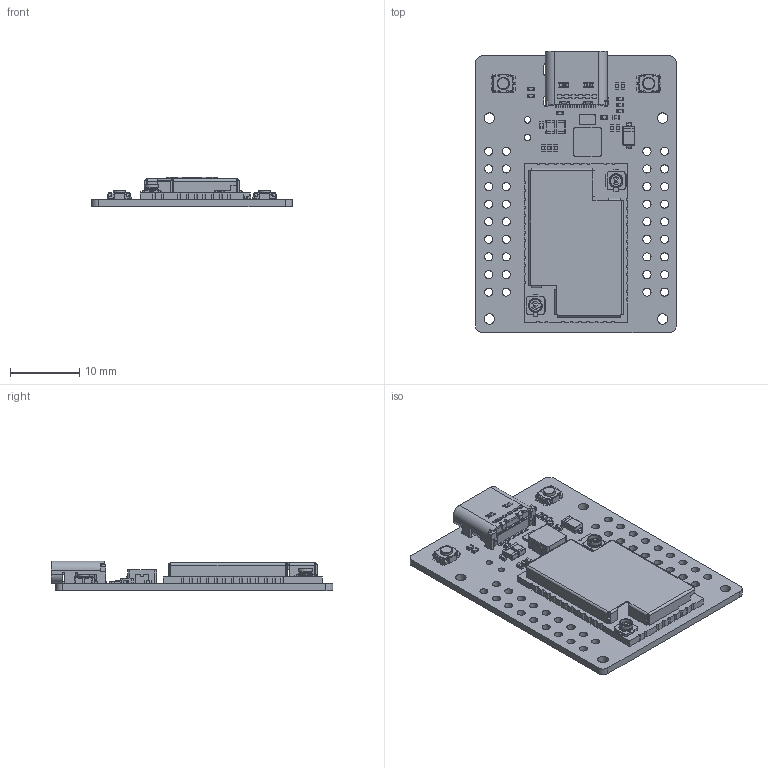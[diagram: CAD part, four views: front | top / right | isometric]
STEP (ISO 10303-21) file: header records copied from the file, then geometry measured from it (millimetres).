
FILE_DESCRIPTION(('Open CASCADE Model'),'2;1');
FILE_NAME('Open CASCADE Shape Model','2025-08-22T04:45:57',('Author'),( 'Open CASCADE'),'Open CASCADE STEP processor 7.5','Open CASCADE 7.5' ,'Unknown');
FILE_SCHEMA(('AUTOMOTIVE_DESIGN { 1 0 10303 214 1 1 1 1 }'));
Length unit declared in the file: millimetre
Products named in the file (37): PCB; Board; Open CASCADE STEP translator 7.5 1.1.1; U2; WLCSP15-1R4X2R3-0R4; R7; sr0402; R6; R5; R4; R3; L1; SL-4R4X4R2X2R0; D1; SOD-123; C11; sc0402; C10; C9; SC0805; C8; C7; C6; C5; C4; R2; U1; RAK4630; R1; K3; DIPTRONICS-2.7X3.0-TPEG-X-Q; K1; J2; USB-C-04-24P-1408C007; C3; C2; C1
Assembly tree (52 placements, depth 3):
  PCB
    Board
      Open CASCADE STEP translator 7.5 1.1.1
    U2
      WLCSP15-1R4X2R3-0R4
    R7
      sr0402
    R6
      sr0402
    R5
      sr0402
    R4
      sr0402
    R3
      sr0402
    L1
      SL-4R4X4R2X2R0
    D1
      SOD-123
    C11
      sc0402
    C10
      sc0402
    C9
      SC0805
    C8
      SC0805
    C7
      sc0402
    C6
      sc0402
    C5
      sc0402
    C4
      sc0402
    R2
      sr0402
    U1
      RAK4630
    R1
      sr0402
    K3
      DIPTRONICS-2.7X3.0-TPEG-X-Q
    K1
      DIPTRONICS-2.7X3.0-TPEG-X-Q
    J2
      USB-C-04-24P-1408C007
    C3
      sc0402
    C2
      sc0402
    C1
      sc0402
Bounding box: 29 x 40.66 x 4.28 mm (x, y, z)
Volume: 1730.8 mm3; surface area: 4768 mm2
Topology: 26 solids, 26 shells, 3069 faces, 8153 edges, 5085 vertices
Faces by surface type: plane 1509, cylinder 1148, torus 240, revolution 72, bspline 48, sphere 32, cone 20
Full cylindrical faces by diameter (mm): 0.08 x1, 0.3 x15, 0.45 x2, 0.5 x6, 0.914 x2, 1.17 x36, 1.5 x4, 1.7 x4, 1.8 x2, 1.86 x2, 2 x4
Entity records: 78072 total; most frequent: CARTESIAN_POINT 19325, ORIENTED_EDGE 10674, DIRECTION 7964, EDGE_CURVE 5337, VERTEX_POINT 3455, AXIS2_PLACEMENT_3D 2978, B_SPLINE_CURVE_WITH_KNOTS 2263, FACE_BOUND 2056
